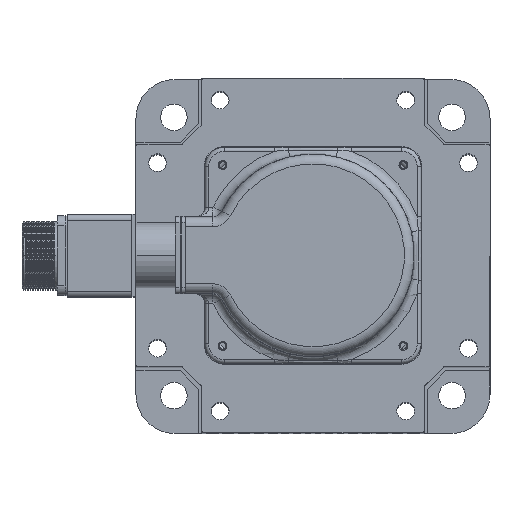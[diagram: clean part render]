
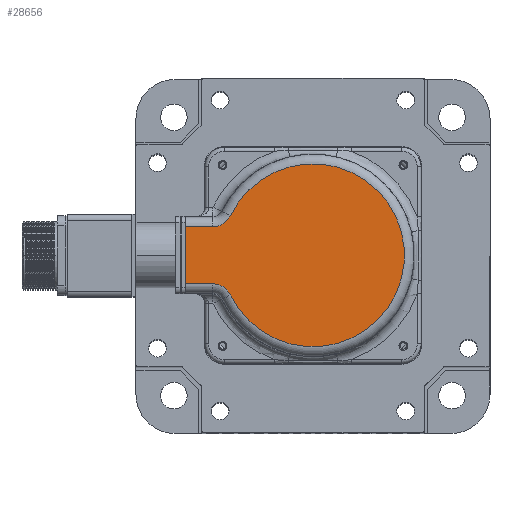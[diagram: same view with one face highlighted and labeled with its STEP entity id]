
A CAD part, top view. The second image highlights one B-rep face of the part: STEP entity #28656.
In plain terms, the highlighted planar face has unit normal (0, 0, 1).
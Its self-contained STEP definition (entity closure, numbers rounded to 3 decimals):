
#1109 = EDGE_CURVE ( 'NONE', #25940, #25398, #24440, .T. ) ;
#1378 = CARTESIAN_POINT ( 'NONE',  ( -41.901, -20.164, 444. ) ) ;
#1418 = CARTESIAN_POINT ( 'NONE',  ( -41.901, 20.164, 444. ) ) ;
#3573 = VECTOR ( 'NONE', #7837, 1000. ) ;
#4192 = PLANE ( 'NONE',  #13353 ) ;
#4646 = ORIENTED_EDGE ( 'NONE', *, *, #30869, .T. ) ;
#5420 = VECTOR ( 'NONE', #5890, 1000. ) ;
#5529 = DIRECTION ( 'NONE',  ( -1., 0., 0. ) ) ;
#5890 = DIRECTION ( 'NONE',  ( 0., 1., 0. ) ) ;
#5936 = AXIS2_PLACEMENT_3D ( 'NONE', #13006, #29463, #7862 ) ;
#6266 = CARTESIAN_POINT ( 'NONE',  ( -50.912, -24.5, 444. ) ) ;
#6740 = EDGE_CURVE ( 'NONE', #25940, #18206, #15235, .T. ) ;
#7276 = CARTESIAN_POINT ( 'NONE',  ( -65., -14.5, 444. ) ) ;
#7538 = ORIENTED_EDGE ( 'NONE', *, *, #7561, .F. ) ;
#7561 = EDGE_CURVE ( 'NONE', #29482, #25398, #13207, .T. ) ;
#7837 = DIRECTION ( 'NONE',  ( 1., 0., 0. ) ) ;
#7862 = DIRECTION ( 'NONE',  ( -1., 0., 0. ) ) ;
#8298 = CARTESIAN_POINT ( 'NONE',  ( -47.666, -14.5, 444. ) ) ;
#11241 = CARTESIAN_POINT ( 'NONE',  ( 0., 0., 444. ) ) ;
#12931 = ORIENTED_EDGE ( 'NONE', *, *, #26009, .T. ) ;
#13006 = CARTESIAN_POINT ( 'NONE',  ( 0., 0., 444. ) ) ;
#13079 = LINE ( 'NONE', #15905, #5420 ) ;
#13207 = CIRCLE ( 'NONE', #27221, 10. ) ;
#13353 = AXIS2_PLACEMENT_3D ( 'NONE', #11241, #30200, #5529 ) ;
#13494 = ORIENTED_EDGE ( 'NONE', *, *, #6740, .F. ) ;
#13636 = VERTEX_POINT ( 'NONE', #19259 ) ;
#14272 = CARTESIAN_POINT ( 'NONE',  ( -50.912, 24.5, 444. ) ) ;
#14578 = CARTESIAN_POINT ( 'NONE',  ( -50.912, 14.5, 444. ) ) ;
#14715 = EDGE_LOOP ( 'NONE', ( #7538, #4646, #27385, #12931, #13494, #24368 ) ) ;
#15116 = CARTESIAN_POINT ( 'NONE',  ( 0., 14.5, 444. ) ) ;
#15235 = CIRCLE ( 'NONE', #28735, 10. ) ;
#15357 = DIRECTION ( 'NONE',  ( -1., 0., 0. ) ) ;
#15905 = CARTESIAN_POINT ( 'NONE',  ( -65., 0., 444. ) ) ;
#16514 = VERTEX_POINT ( 'NONE', #7276 ) ;
#18206 = VERTEX_POINT ( 'NONE', #20381 ) ;
#19259 = CARTESIAN_POINT ( 'NONE',  ( -65., 14.5, 444. ) ) ;
#19452 = DIRECTION ( 'NONE',  ( 0., 0., 1. ) ) ;
#20133 = LINE ( 'NONE', #15116, #30979 ) ;
#20381 = CARTESIAN_POINT ( 'NONE',  ( -50.912, -14.5, 444. ) ) ;
#20664 = FACE_OUTER_BOUND ( 'NONE', #14715, .T. ) ;
#22236 = LINE ( 'NONE', #8298, #3573 ) ;
#22325 = EDGE_CURVE ( 'NONE', #16514, #13636, #13079, .T. ) ;
#22473 = DIRECTION ( 'NONE',  ( -1., 0., 0. ) ) ;
#23818 = DIRECTION ( 'NONE',  ( -1., 0., 0. ) ) ;
#24368 = ORIENTED_EDGE ( 'NONE', *, *, #1109, .T. ) ;
#24440 = CIRCLE ( 'NONE', #5936, 46.5 ) ;
#25213 = DIRECTION ( 'NONE',  ( 0., 0., 1. ) ) ;
#25398 = VERTEX_POINT ( 'NONE', #1418 ) ;
#25940 = VERTEX_POINT ( 'NONE', #1378 ) ;
#26009 = EDGE_CURVE ( 'NONE', #16514, #18206, #22236, .T. ) ;
#27221 = AXIS2_PLACEMENT_3D ( 'NONE', #14272, #19452, #23818 ) ;
#27385 = ORIENTED_EDGE ( 'NONE', *, *, #22325, .F. ) ;
#28656 = ADVANCED_FACE ( 'NONE', ( #20664 ), #4192, .T. ) ;
#28735 = AXIS2_PLACEMENT_3D ( 'NONE', #6266, #25213, #15357 ) ;
#29463 = DIRECTION ( 'NONE',  ( 0., 0., 1. ) ) ;
#29482 = VERTEX_POINT ( 'NONE', #14578 ) ;
#30200 = DIRECTION ( 'NONE',  ( 0., 0., 1. ) ) ;
#30869 = EDGE_CURVE ( 'NONE', #29482, #13636, #20133, .T. ) ;
#30979 = VECTOR ( 'NONE', #22473, 1000. ) ;
